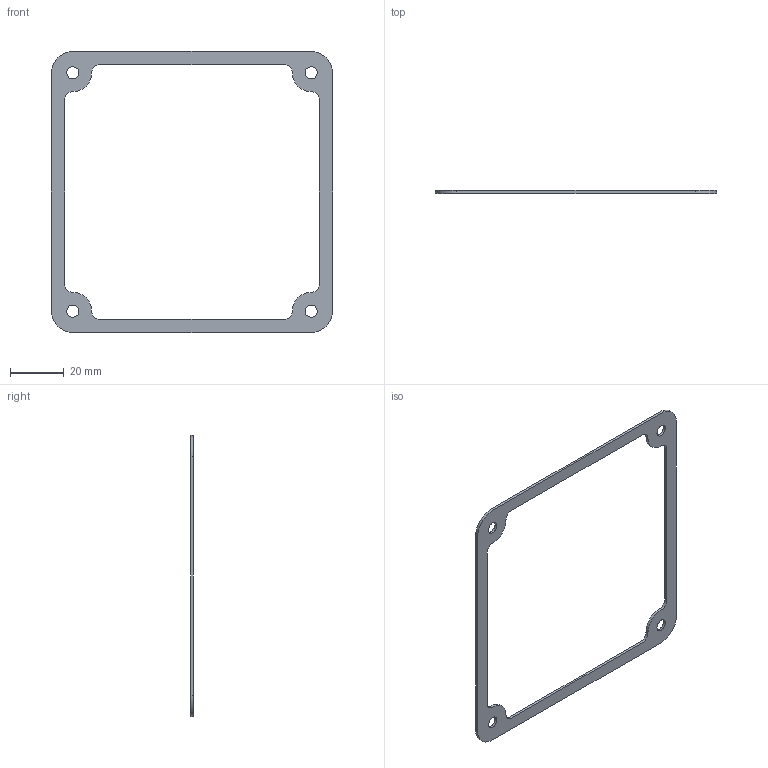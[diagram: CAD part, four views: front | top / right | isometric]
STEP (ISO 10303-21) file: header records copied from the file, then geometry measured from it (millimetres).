
FILE_DESCRIPTION(/* description */ (''),/* implementation_level */ '2;1');
FILE_NAME(/* name */ '',/* time_stamp */ '2024-08-02T13:16:24+09:00',/* author */ ('jhkim'),/* organization */ (''),/* preprocessor_version */ 'ST-DEVELOPER v20',/* originating_system */ 'Autodesk Inventor 2025',/* authorisation */ '');
FILE_SCHEMA (('AUTOMOTIVE_DESIGN { 1 0 10303 214 3 1 1 }'));
Length unit declared in the file: millimetre
Products named in the file (1): 개스킷
Bounding box: 105 x 1 x 105 mm (x, y, z)
Volume: 2254.8 mm3; surface area: 5330.2 mm2
Topology: 1 solids, 1 shells, 30 faces, 84 edges, 56 vertices
Faces by surface type: cylinder 20, plane 10
Full cylindrical faces by diameter (mm): 4.5 x4
Entity records: 1051 total; most frequent: DIRECTION 186, CARTESIAN_POINT 171, ORIENTED_EDGE 168, EDGE_CURVE 84, AXIS2_PLACEMENT_3D 71, VERTEX_POINT 56, LINE 44, VECTOR 44
